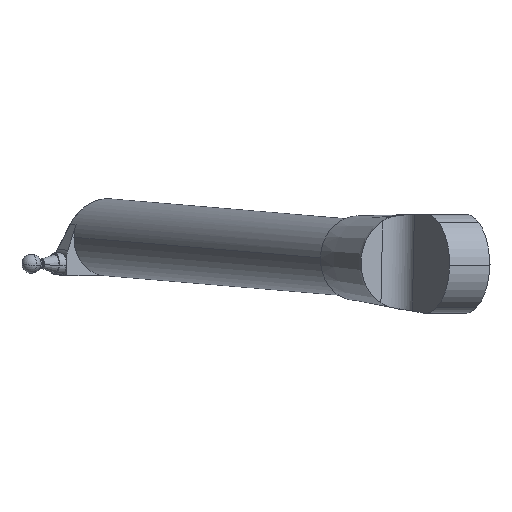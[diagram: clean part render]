
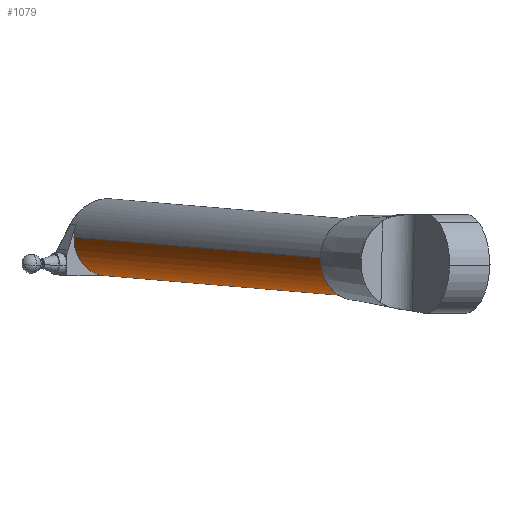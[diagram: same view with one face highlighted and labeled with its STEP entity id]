
A CAD part, front view. The second image highlights one B-rep face of the part: STEP entity #1079.
In plain terms, the highlighted cylindrical face has radius 25 mm (diameter 50 mm), a partial arc.
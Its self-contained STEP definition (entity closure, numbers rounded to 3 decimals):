
#18 = CYLINDRICAL_SURFACE ( 'NONE', #1179, 25. ) ;
#46 = DIRECTION ( 'NONE',  ( 0.866, 0.5, 0. ) ) ;
#53 = ORIENTED_EDGE ( 'NONE', *, *, #3144, .F. ) ;
#120 = AXIS2_PLACEMENT_3D ( 'NONE', #1765, #1500, #3149 ) ;
#165 = CARTESIAN_POINT ( 'NONE',  ( -249938.322, 432855.866, 20746.151 ) ) ;
#225 = CARTESIAN_POINT ( 'NONE',  ( -122.063, 261.413, -86.354 ) ) ;
#317 = CIRCLE ( 'NONE', #3691, 25. ) ;
#345 = LINE ( 'NONE', #4054, #3175 ) ;
#385 = DIRECTION ( 'NONE',  ( 0.5, -0.865, -0.042 ) ) ;
#556 = FACE_OUTER_BOUND ( 'NONE', #3041, .T. ) ;
#900 = VECTOR ( 'NONE', #3858, 1000. ) ;
#1065 = DIRECTION ( 'NONE',  ( -0.866, -0.5, 0. ) ) ;
#1079 = ADVANCED_FACE ( 'NONE', ( #556 ), #18, .T. ) ;
#1126 = CARTESIAN_POINT ( 'NONE',  ( -284.24, 542.312, -72.828 ) ) ;
#1179 = AXIS2_PLACEMENT_3D ( 'NONE', #3723, #2072, #1065 ) ;
#1228 = ORIENTED_EDGE ( 'NONE', *, *, #3542, .F. ) ;
#1410 = ORIENTED_EDGE ( 'NONE', *, *, #2494, .T. ) ;
#1449 = CIRCLE ( 'NONE', #120, 25. ) ;
#1500 = DIRECTION ( 'NONE',  ( -0.5, 0.865, 0.042 ) ) ;
#1628 = EDGE_CURVE ( 'NONE', #4070, #2248, #4178, .T. ) ;
#1657 = CARTESIAN_POINT ( 'NONE',  ( -306.411, 530.714, -97.806 ) ) ;
#1765 = CARTESIAN_POINT ( 'NONE',  ( -305.89, 529.812, -72.828 ) ) ;
#2072 = DIRECTION ( 'NONE',  ( 0.5, -0.865, -0.042 ) ) ;
#2180 = ORIENTED_EDGE ( 'NONE', *, *, #1628, .F. ) ;
#2248 = VERTEX_POINT ( 'NONE', #3090 ) ;
#2494 = EDGE_CURVE ( 'NONE', #3681, #3475, #345, .T. ) ;
#2519 = ORIENTED_EDGE ( 'NONE', *, *, #3092, .F. ) ;
#2702 = CIRCLE ( 'NONE', #2832, 25. ) ;
#2832 = AXIS2_PLACEMENT_3D ( 'NONE', #3877, #3256, #3518 ) ;
#2880 = VERTEX_POINT ( 'NONE', #1657 ) ;
#3041 = EDGE_LOOP ( 'NONE', ( #2519, #1410, #1228, #2180, #53 ) ) ;
#3043 = DIRECTION ( 'NONE',  ( -0.5, 0.865, 0.042 ) ) ;
#3090 = CARTESIAN_POINT ( 'NONE',  ( -165.364, 236.413, -86.354 ) ) ;
#3092 = EDGE_CURVE ( 'NONE', #3681, #2880, #317, .T. ) ;
#3144 = EDGE_CURVE ( 'NONE', #2880, #4070, #1449, .T. ) ;
#3149 = DIRECTION ( 'NONE',  ( 0.866, 0.5, 0. ) ) ;
#3175 = VECTOR ( 'NONE', #385, 1000. ) ;
#3256 = DIRECTION ( 'NONE',  ( 0.5, -0.865, -0.042 ) ) ;
#3352 = CARTESIAN_POINT ( 'NONE',  ( -305.89, 529.812, -72.828 ) ) ;
#3475 = VERTEX_POINT ( 'NONE', #225 ) ;
#3518 = DIRECTION ( 'NONE',  ( 0.021, -0.036, 0.999 ) ) ;
#3542 = EDGE_CURVE ( 'NONE', #2248, #3475, #2702, .T. ) ;
#3681 = VERTEX_POINT ( 'NONE', #1126 ) ;
#3691 = AXIS2_PLACEMENT_3D ( 'NONE', #3352, #3043, #46 ) ;
#3723 = CARTESIAN_POINT ( 'NONE',  ( -249916.671, 432868.366, 20746.151 ) ) ;
#3858 = DIRECTION ( 'NONE',  ( 0.5, -0.865, -0.042 ) ) ;
#3877 = CARTESIAN_POINT ( 'NONE',  ( -143.714, 248.913, -86.354 ) ) ;
#3986 = CARTESIAN_POINT ( 'NONE',  ( -327.541, 517.312, -72.828 ) ) ;
#4054 = CARTESIAN_POINT ( 'NONE',  ( -249895.021, 432880.866, 20746.151 ) ) ;
#4070 = VERTEX_POINT ( 'NONE', #3986 ) ;
#4178 = LINE ( 'NONE', #165, #900 ) ;
